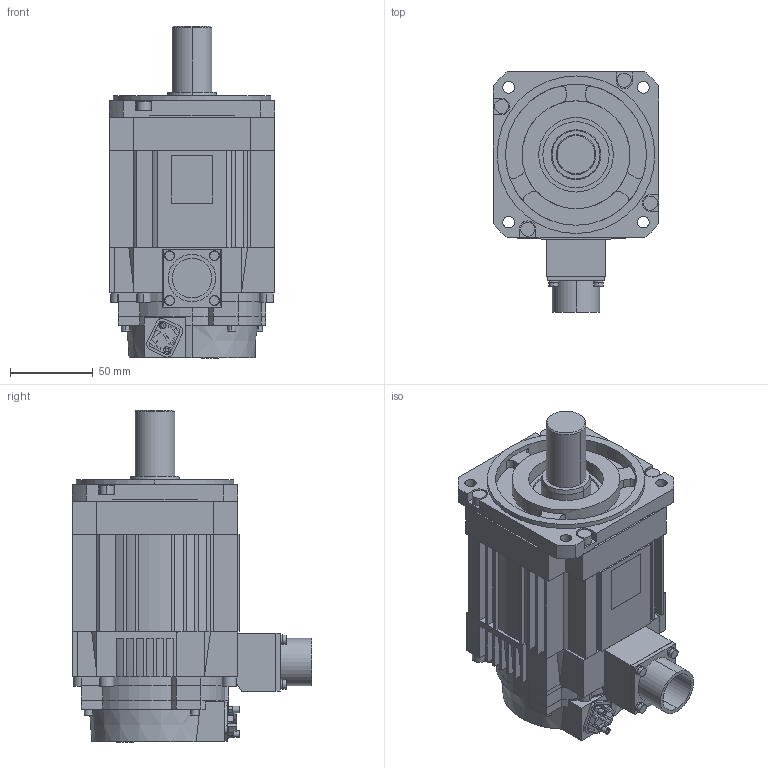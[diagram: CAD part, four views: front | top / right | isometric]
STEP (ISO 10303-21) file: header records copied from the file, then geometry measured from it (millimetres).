
FILE_DESCRIPTION (( 'STEP AP214' ), '1' );
FILE_NAME ('sgmxa_15aua21a1.STEP', '2022-05-10T09:00:28', ( '' ), ( '' ), 'SwSTEP 2.0', 'SolidWorks 2016', '' );
FILE_SCHEMA (( 'AUTOMOTIVE_DESIGN' ));
Length unit declared in the file: millimetre
Products named in the file (2): sgmxa_15aua21a1
Bounding box: 100 x 144.7 x 200.2 mm (x, y, z)
Volume: 1257018.3 mm3; surface area: 119744.4 mm2
Topology: 1 solids, 1 shells, 633 faces, 1710 edges, 1126 vertices
Faces by surface type: plane 441, cylinder 160, cone 32
Entity records: 20741 total; most frequent: CARTESIAN_POINT 3684, ORIENTED_EDGE 3420, DIRECTION 3326, EDGE_CURVE 1710, VECTOR 1260, LINE 1260, VERTEX_POINT 1126, AXIS2_PLACEMENT_3D 1033
